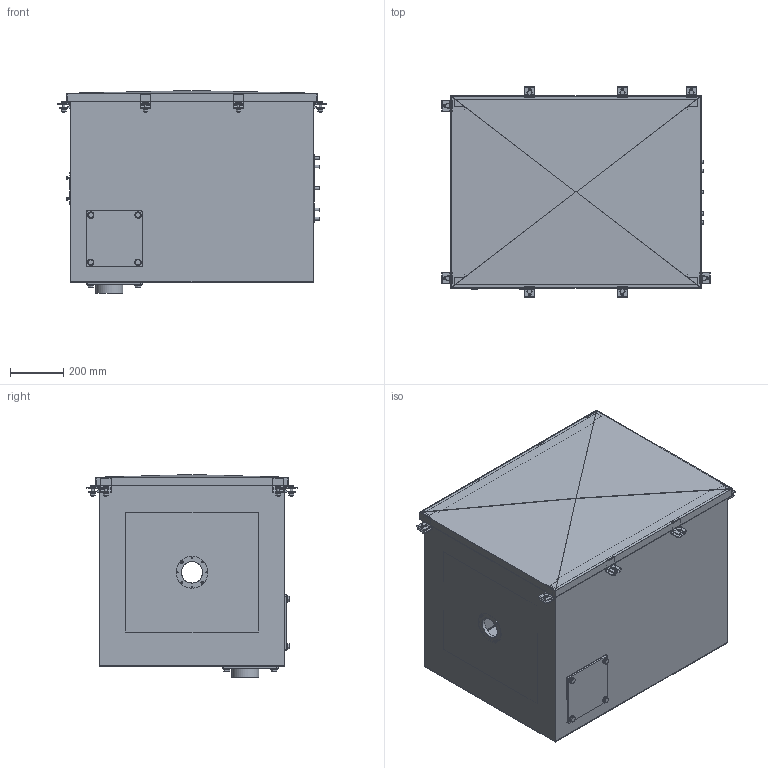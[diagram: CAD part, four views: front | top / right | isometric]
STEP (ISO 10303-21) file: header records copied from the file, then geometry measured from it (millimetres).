
FILE_DESCRIPTION(/* description */ (''),/* implementation_level */ '2;1');
FILE_NAME(/* name */ 'C:\Users\vlakrc01\Desktop\STP\01DEC\84574.stp',/* time_stamp */ '2017-12-01T10:08:41+01:00',/* author */ ('vlakrc01'),/* organization */ ('Hillmar Industries Ltd.'),/* preprocessor_version */ 'ST-DEVELOPER v16.1',/* originating_system */ 'Autodesk Inventor 2016',/* authorisation */ '');
FILE_SCHEMA (('AUTOMOTIVE_DESIGN { 1 0 10303 214 3 1 1 }'));
Length unit declared in the file: millimetre
Products named in the file (1): 84574 SBM-ENP4-06-10KV4 ENCLOSURE WITH SNG BRUSH MOUNT NO FO_Shrinkwr
ap_1
Bounding box: 1010.97 x 791.97 x 764.36 mm (x, y, z)
Volume: 11085202.5 mm3; surface area: 7840288.8 mm2
Topology: 21 solids, 21 shells, 1149 faces, 2699 edges, 1705 vertices
Faces by surface type: plane 659, cylinder 266, cone 224
Full cylindrical faces by diameter (mm): 4.917 x8, 5.459 x2, 6 x2, 7 x4, 8.7 x2, 9.188 x8, 10 x16, 11 x4, 11.053 x16, 12 x16, 13 x7, 14 x20, 14.3 x8, 15.4 x8, 17.2 x16, 22.225 x1, 24 x7, 76.2 x1, 80 x1, 82 x1, 101.6 x1, 102 x1, 118.3 x1, 120 x2, 254 x1
Entity records: 31898 total; most frequent: CARTESIAN_POINT 6100, DIRECTION 5055, ORIENTED_EDGE 4846, EDGE_CURVE 2413, AXIS2_PLACEMENT_3D 1916, VERTEX_POINT 1633, EDGE_LOOP 1572, LINE 1223
